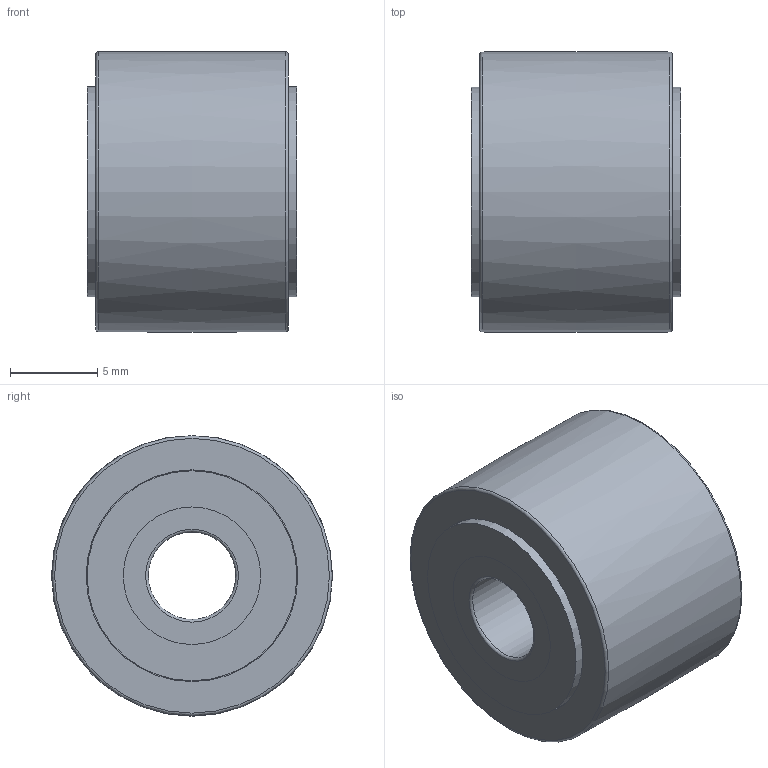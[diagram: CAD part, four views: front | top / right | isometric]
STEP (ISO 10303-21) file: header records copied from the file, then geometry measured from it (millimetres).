
FILE_DESCRIPTION(/* description */ (''),/* implementation_level */ '2;1');
FILE_NAME(/* name */ 'C:\Users\OUREHANEKD\NATV\NATV--\NATV5.stp',/* time_stamp */ '2018-06-05T13:10:42+02:00',/* author */ ('OUREHANEKD'),/* organization */ (''),/* preprocessor_version */ 'ST-DEVELOPER v16.13',/* originating_system */ 'Autodesk Inventor 2018',/* authorisation */ '');
FILE_SCHEMA (('AUTOMOTIVE_DESIGN { 1 0 10303 214 3 1 1 }'));
Length unit declared in the file: millimetre
Products named in the file (5): NATV5; NATV5-01; NATV5-needle; NATV5-shield; NATV5-02
Assembly tree (43 placements, depth 2):
  NATV5
    NATV5-01
    NATV5-needle  x40
    NATV5-shield
    NATV5-02
Bounding box: 12 x 16.06 x 16.03 mm (x, y, z)
Volume: 2039.3 mm3; surface area: 3141.3 mm2
Topology: 44 solids, 44 shells, 149 faces, 169 edges, 112 vertices
Faces by surface type: plane 92, cylinder 52, torus 4, bspline 1
Full cylindrical faces by diameter (mm): 0.792 x40, 0.99 x1, 5 x1, 7.86 x4, 8.96 x1, 10.544 x1, 12 x2, 12.1 x2
Entity records: 1260 total; most frequent: CARTESIAN_POINT 243, DIRECTION 222, AXIS2_PLACEMENT_3D 111, ORIENTED_EDGE 70, EDGE_LOOP 63, PRODUCT_DEFINITION_SHAPE 48, ITEM_DEFINED_TRANSFORMATION 43, CONTEXT_DEPENDENT_SHAPE_REPRESENTATION 43
